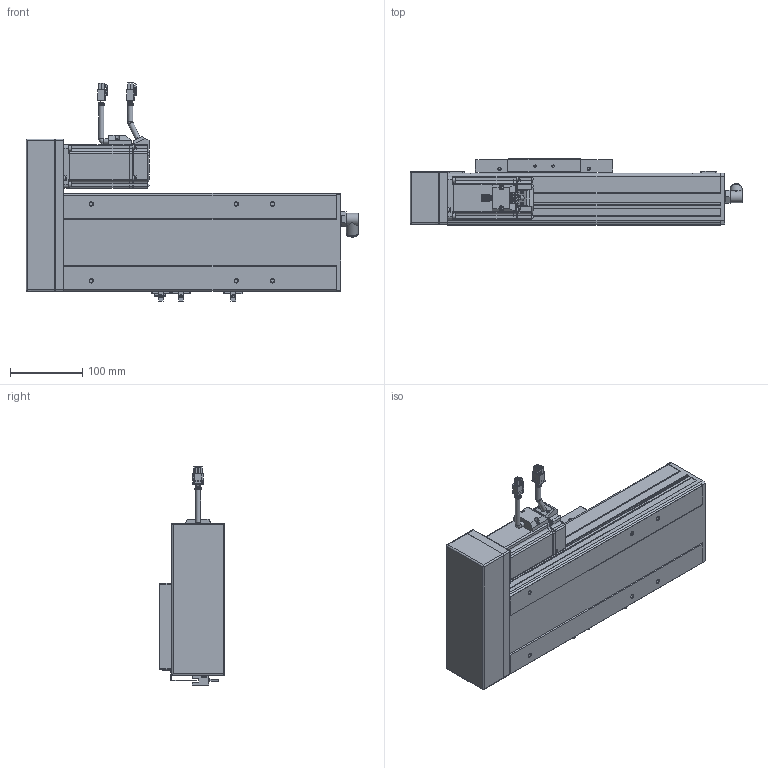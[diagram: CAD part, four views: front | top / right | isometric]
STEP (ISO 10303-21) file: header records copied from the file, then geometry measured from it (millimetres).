
FILE_DESCRIPTION(/* description */ ('STEP AP214'),/* implementation_level */ '2;1');
FILE_NAME(/* name */ 'PSC140-L05-S100-BL-P40-C1-N(0)',/* time_stamp */ '2022-06-13T03:26:09+02:00',/* author */ ('License CC BY-ND 4.0'),/* organization */ ('CADENAS'),/* preprocessor_version */ 'ST-DEVELOPER v18.102',/* originating_system */ 'PARTsolutions',/* authorisation */ ' ');
FILE_SCHEMA (('AUTOMOTIVE_DESIGN {1 0 10303 214 3 1 1}'));
Length unit declared in the file: millimetre
Products named in the file (11): PSC140-L05-S100-BL-P40-C1-N(0); P40-s2; P40-c2; P40-s1; P40-c1; P40-p1; PSC140-BL-body2; PSC140-sensor; PSC140-BL-SLIDER; PSC140-S100-BL-P40-C1_BODY1; PSC140-L05-S100-BL-P40-C1-N(0)_dummy
Assembly tree (12 placements, depth 2):
  PSC140-L05-S100-BL-P40-C1-N(0)
    P40-s2
    P40-c2
    P40-s1
    P40-c1
    P40-p1
    PSC140-BL-body2
    PSC140-sensor  x3
    PSC140-BL-SLIDER
    PSC140-S100-BL-P40-C1_BODY1
    PSC140-L05-S100-BL-P40-C1-N(0)_dummy
Bounding box: 458 x 91 x 300.88 mm (x, y, z)
Volume: 5194503.5 mm3; surface area: 379678.2 mm2
Topology: 11 solids, 11 shells, 1213 faces, 3149 edges, 2085 vertices
Faces by surface type: plane 852, cylinder 308, cone 34, torus 19
Full cylindrical faces by diameter (mm): 1 x8, 2.6 x10, 2.8 x3, 3.3 x8, 4.5 x12, 4.6 x3, 4.917 x10, 5 x4, 5.5 x8, 6 x10, 7 x10, 9 x2, 10 x1, 11 x1, 12 x1, 13.74 x1, 14 x1, 16.4 x2, 16.5 x1, 36 x1, 50 x2
Entity records: 33726 total; most frequent: CARTESIAN_POINT 5899, DIRECTION 5659, ORIENTED_EDGE 5498, EDGE_CURVE 2749, LINE 2097, VECTOR 2097, VERTEX_POINT 1906, AXIS2_PLACEMENT_3D 1781
